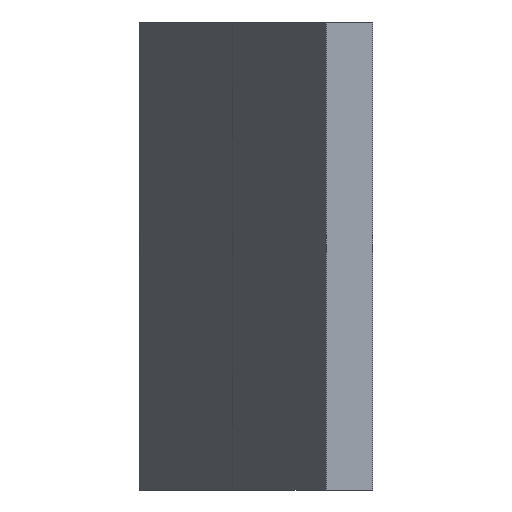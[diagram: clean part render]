
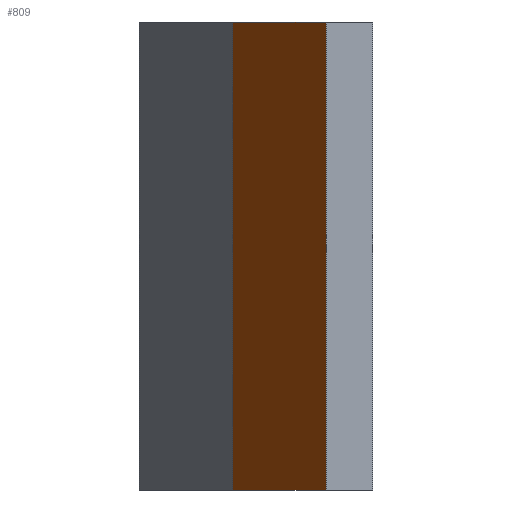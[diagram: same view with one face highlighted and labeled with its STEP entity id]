
A CAD part, left-side view. The second image highlights one B-rep face of the part: STEP entity #809.
In plain terms, the highlighted planar face has unit normal (-0.496, 0.868, 0).
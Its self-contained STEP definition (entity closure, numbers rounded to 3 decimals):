
#522=CARTESIAN_POINT('',(-60.,2.,-10.));
#523=VERTEX_POINT('',#522);
#530=CARTESIAN_POINT('',(-53.,6.,-10.));
#531=VERTEX_POINT('',#530);
#532=CARTESIAN_POINT('',(-53.,6.,-10.));
#533=DIRECTION('',(-0.868,-0.496,0.0));
#534=VECTOR('',#533,8.062);
#535=LINE('',#532,#534);
#536=EDGE_CURVE('',#531,#523,#535,.T.);
#767=CARTESIAN_POINT('',(-60.,2.,10.));
#768=VERTEX_POINT('',#767);
#775=CARTESIAN_POINT('',(-60.,2.,10.));
#776=DIRECTION('',(0.0,0.0,-1.0));
#777=VECTOR('',#776,20.);
#778=LINE('',#775,#777);
#779=EDGE_CURVE('',#768,#523,#778,.T.);
#786=CARTESIAN_POINT('',(-60.,2.,0.0));
#787=DIRECTION('',(-0.496,0.868,0.0));
#788=DIRECTION('',(0.0,0.0,1.0));
#789=AXIS2_PLACEMENT_3D('',#786,#787,#788);
#790=PLANE('',#789);
#791=CARTESIAN_POINT('',(-53.,6.,10.));
#792=VERTEX_POINT('',#791);
#793=CARTESIAN_POINT('',(-60.,2.,10.));
#794=DIRECTION('',(0.868,0.496,0.0));
#795=VECTOR('',#794,8.062);
#796=LINE('',#793,#795);
#797=EDGE_CURVE('',#768,#792,#796,.T.);
#798=ORIENTED_EDGE('',*,*,#797,.T.);
#799=CARTESIAN_POINT('',(-53.,6.,10.));
#800=DIRECTION('',(0.0,0.0,-1.0));
#801=VECTOR('',#800,20.);
#802=LINE('',#799,#801);
#803=EDGE_CURVE('',#792,#531,#802,.T.);
#804=ORIENTED_EDGE('',*,*,#803,.T.);
#805=ORIENTED_EDGE('',*,*,#536,.T.);
#806=ORIENTED_EDGE('',*,*,#779,.F.);
#807=EDGE_LOOP('',(#798,#804,#805,#806));
#808=FACE_OUTER_BOUND('',#807,.T.);
#809=ADVANCED_FACE('',(#808),#790,.T.);
